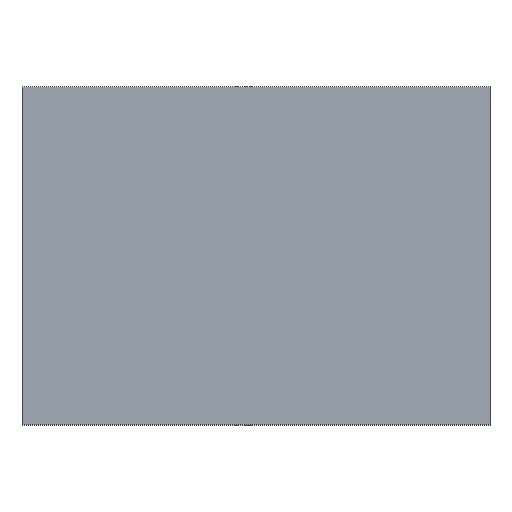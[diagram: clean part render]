
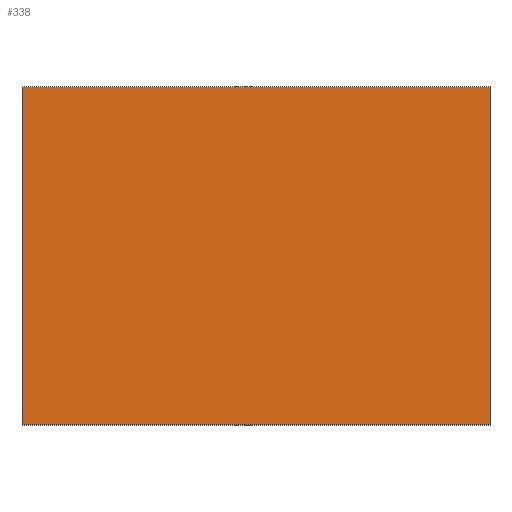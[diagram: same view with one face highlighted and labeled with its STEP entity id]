
A CAD part, top view. The second image highlights one B-rep face of the part: STEP entity #338.
In plain terms, the highlighted planar face has unit normal (0, 0, 1).
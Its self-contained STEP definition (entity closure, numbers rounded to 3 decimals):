
#24 = VERTEX_POINT('',#25);
#25 = CARTESIAN_POINT('',(-360.,-260.,3.));
#32 = PLANE('',#33);
#33 = AXIS2_PLACEMENT_3D('',#34,#35,#36);
#34 = CARTESIAN_POINT('',(-360.,-260.,0.));
#35 = DIRECTION('',(0.,1.,0.));
#36 = DIRECTION('',(1.,0.,0.));
#44 = PLANE('',#45);
#45 = AXIS2_PLACEMENT_3D('',#46,#47,#48);
#46 = CARTESIAN_POINT('',(-360.,260.,0.));
#47 = DIRECTION('',(1.,0.,-0.));
#48 = DIRECTION('',(0.,-1.,0.));
#56 = EDGE_CURVE('',#24,#57,#59,.T.);
#57 = VERTEX_POINT('',#58);
#58 = CARTESIAN_POINT('',(360.,-260.,3.));
#59 = SURFACE_CURVE('',#60,(#64,#71),.PCURVE_S1.);
#60 = LINE('',#61,#62);
#61 = CARTESIAN_POINT('',(-360.,-260.,3.));
#62 = VECTOR('',#63,1.);
#63 = DIRECTION('',(1.,0.,0.));
#64 = PCURVE('',#32,#65);
#65 = DEFINITIONAL_REPRESENTATION('',(#66),#70);
#66 = LINE('',#67,#68);
#67 = CARTESIAN_POINT('',(0.,-3.));
#68 = VECTOR('',#69,1.);
#69 = DIRECTION('',(1.,0.));
#70 = ( GEOMETRIC_REPRESENTATION_CONTEXT(2) 
PARAMETRIC_REPRESENTATION_CONTEXT() REPRESENTATION_CONTEXT('2D SPACE',''
  ) );
#71 = PCURVE('',#72,#77);
#72 = PLANE('',#73);
#73 = AXIS2_PLACEMENT_3D('',#74,#75,#76);
#74 = CARTESIAN_POINT('',(0.,0.,3.));
#75 = DIRECTION('',(0.,0.,1.));
#76 = DIRECTION('',(1.,0.,-0.));
#77 = DEFINITIONAL_REPRESENTATION('',(#78),#82);
#78 = LINE('',#79,#80);
#79 = CARTESIAN_POINT('',(-360.,-260.));
#80 = VECTOR('',#81,1.);
#81 = DIRECTION('',(1.,0.));
#82 = ( GEOMETRIC_REPRESENTATION_CONTEXT(2) 
PARAMETRIC_REPRESENTATION_CONTEXT() REPRESENTATION_CONTEXT('2D SPACE',''
  ) );
#100 = PLANE('',#101);
#101 = AXIS2_PLACEMENT_3D('',#102,#103,#104);
#102 = CARTESIAN_POINT('',(360.,-260.,0.));
#103 = DIRECTION('',(-1.,0.,0.));
#104 = DIRECTION('',(0.,1.,0.));
#142 = EDGE_CURVE('',#57,#143,#145,.T.);
#143 = VERTEX_POINT('',#144);
#144 = CARTESIAN_POINT('',(360.,260.,3.));
#145 = SURFACE_CURVE('',#146,(#150,#157),.PCURVE_S1.);
#146 = LINE('',#147,#148);
#147 = CARTESIAN_POINT('',(360.,-260.,3.));
#148 = VECTOR('',#149,1.);
#149 = DIRECTION('',(0.,1.,0.));
#150 = PCURVE('',#100,#151);
#151 = DEFINITIONAL_REPRESENTATION('',(#152),#156);
#152 = LINE('',#153,#154);
#153 = CARTESIAN_POINT('',(0.,-3.));
#154 = VECTOR('',#155,1.);
#155 = DIRECTION('',(1.,0.));
#156 = ( GEOMETRIC_REPRESENTATION_CONTEXT(2) 
PARAMETRIC_REPRESENTATION_CONTEXT() REPRESENTATION_CONTEXT('2D SPACE',''
  ) );
#157 = PCURVE('',#72,#158);
#158 = DEFINITIONAL_REPRESENTATION('',(#159),#163);
#159 = LINE('',#160,#161);
#160 = CARTESIAN_POINT('',(360.,-260.));
#161 = VECTOR('',#162,1.);
#162 = DIRECTION('',(0.,1.));
#163 = ( GEOMETRIC_REPRESENTATION_CONTEXT(2) 
PARAMETRIC_REPRESENTATION_CONTEXT() REPRESENTATION_CONTEXT('2D SPACE',''
  ) );
#181 = PLANE('',#182);
#182 = AXIS2_PLACEMENT_3D('',#183,#184,#185);
#183 = CARTESIAN_POINT('',(360.,260.,0.));
#184 = DIRECTION('',(0.,-1.,0.));
#185 = DIRECTION('',(-1.,0.,0.));
#218 = EDGE_CURVE('',#143,#219,#221,.T.);
#219 = VERTEX_POINT('',#220);
#220 = CARTESIAN_POINT('',(-360.,260.,3.));
#221 = SURFACE_CURVE('',#222,(#226,#233),.PCURVE_S1.);
#222 = LINE('',#223,#224);
#223 = CARTESIAN_POINT('',(360.,260.,3.));
#224 = VECTOR('',#225,1.);
#225 = DIRECTION('',(-1.,0.,0.));
#226 = PCURVE('',#181,#227);
#227 = DEFINITIONAL_REPRESENTATION('',(#228),#232);
#228 = LINE('',#229,#230);
#229 = CARTESIAN_POINT('',(0.,-3.));
#230 = VECTOR('',#231,1.);
#231 = DIRECTION('',(1.,0.));
#232 = ( GEOMETRIC_REPRESENTATION_CONTEXT(2) 
PARAMETRIC_REPRESENTATION_CONTEXT() REPRESENTATION_CONTEXT('2D SPACE',''
  ) );
#233 = PCURVE('',#72,#234);
#234 = DEFINITIONAL_REPRESENTATION('',(#235),#239);
#235 = LINE('',#236,#237);
#236 = CARTESIAN_POINT('',(360.,260.));
#237 = VECTOR('',#238,1.);
#238 = DIRECTION('',(-1.,0.));
#239 = ( GEOMETRIC_REPRESENTATION_CONTEXT(2) 
PARAMETRIC_REPRESENTATION_CONTEXT() REPRESENTATION_CONTEXT('2D SPACE',''
  ) );
#289 = EDGE_CURVE('',#219,#24,#290,.T.);
#290 = SURFACE_CURVE('',#291,(#295,#302),.PCURVE_S1.);
#291 = LINE('',#292,#293);
#292 = CARTESIAN_POINT('',(-360.,260.,3.));
#293 = VECTOR('',#294,1.);
#294 = DIRECTION('',(0.,-1.,0.));
#295 = PCURVE('',#44,#296);
#296 = DEFINITIONAL_REPRESENTATION('',(#297),#301);
#297 = LINE('',#298,#299);
#298 = CARTESIAN_POINT('',(0.,-3.));
#299 = VECTOR('',#300,1.);
#300 = DIRECTION('',(1.,0.));
#301 = ( GEOMETRIC_REPRESENTATION_CONTEXT(2) 
PARAMETRIC_REPRESENTATION_CONTEXT() REPRESENTATION_CONTEXT('2D SPACE',''
  ) );
#302 = PCURVE('',#72,#303);
#303 = DEFINITIONAL_REPRESENTATION('',(#304),#308);
#304 = LINE('',#305,#306);
#305 = CARTESIAN_POINT('',(-360.,260.));
#306 = VECTOR('',#307,1.);
#307 = DIRECTION('',(0.,-1.));
#308 = ( GEOMETRIC_REPRESENTATION_CONTEXT(2) 
PARAMETRIC_REPRESENTATION_CONTEXT() REPRESENTATION_CONTEXT('2D SPACE',''
  ) );
#338 = ADVANCED_FACE('',(#339),#72,.T.);
#339 = FACE_BOUND('',#340,.T.);
#340 = EDGE_LOOP('',(#341,#342,#343,#344));
#341 = ORIENTED_EDGE('',*,*,#56,.T.);
#342 = ORIENTED_EDGE('',*,*,#142,.T.);
#343 = ORIENTED_EDGE('',*,*,#218,.T.);
#344 = ORIENTED_EDGE('',*,*,#289,.T.);
